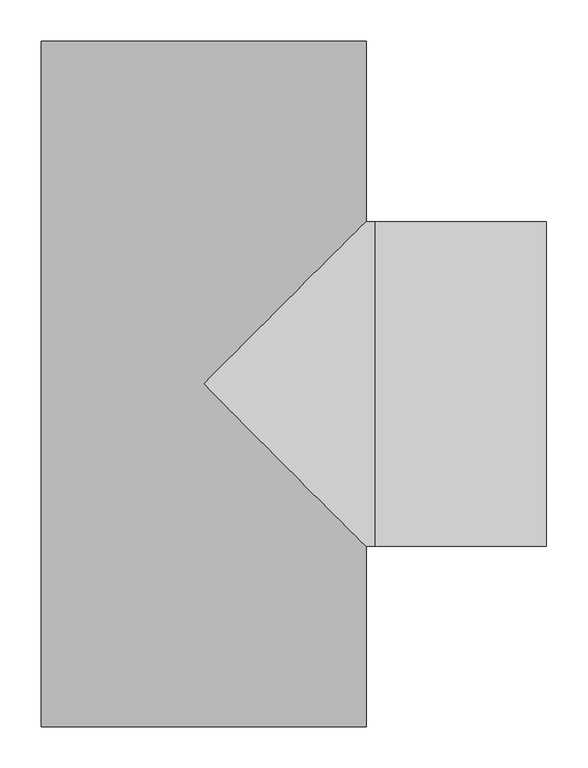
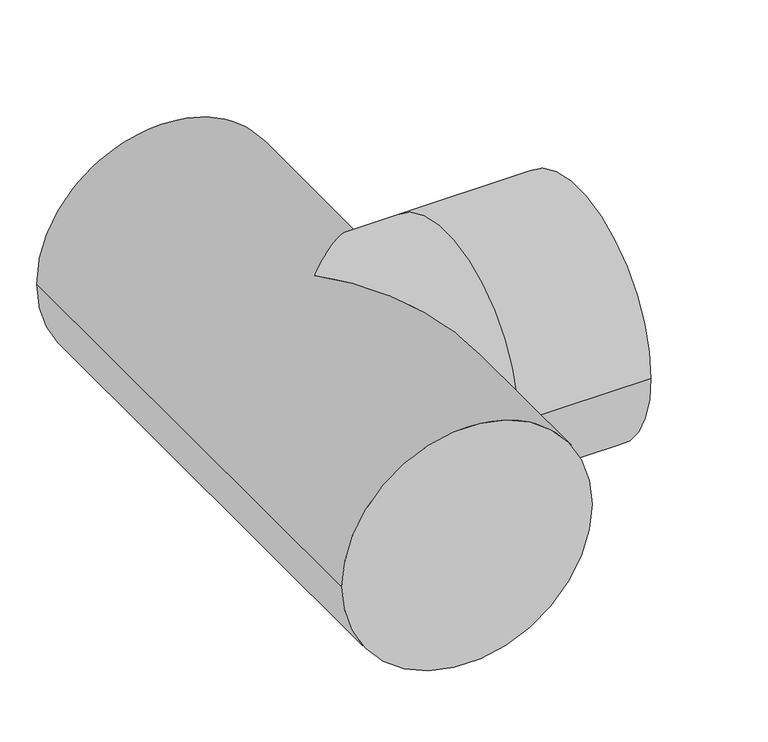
"""IFC4 building model written with IfcOpenShell, lengths in millimetres: pipe fitting geometry, 01051003 : Tés à 90º."""

from ifc_helpers import new_model, si_unit, frame, origin, place, context, project, spatial, circle_curve, ellipse_curve, source, transform, mapped, element, save
from ifc_brep_helpers import plane_surface, cylinder_surface, advanced_brep


def pipe_fitting_89f3fab3(model_context):
    return source(origin(), model_context, "Body", "AdvancedBrep", [
        advanced_brep(
        [(-196.65, 415.0, 0.0), (196.65, 415.0, 0.0), (-196.65, -415.0, 0.0), (196.65, -415.0, 0.0), (196.65, -196.65, 0.0), (0.0, 0.0, 196.65), (196.65, 196.65, 0.0), (0.0, 0.0, -196.65), (415.0, 196.65, 0.0), (415.0, -196.65, 0.0), (207.0, -196.65, 0.0), (207.0, 196.65, 0.0)],
        [
            (0, 1, circle_curve(frame((0.0, 415.0, 0.0), z_axis=(0.0, 1.0, 0.0), x_axis=(1.0, 0.0, 0.0)), 196.65)),
            (1, 0, circle_curve(frame((0.0, 415.0, 0.0), z_axis=(0.0, 1.0, 0.0), x_axis=(1.0, 0.0, 0.0)), 196.65)),
            (2, 3, circle_curve(frame((0.0, -415.0, 0.0), z_axis=(0.0, -1.0, 0.0), x_axis=(1.0, 0.0, 0.0)), 196.65)),
            (3, 2, circle_curve(frame((0.0, -415.0, 0.0), z_axis=(0.0, -1.0, 0.0), x_axis=(1.0, 0.0, 0.0)), 196.65)),
            (0, 2),
            (3, 4),
            (4, 5, ellipse_curve(frame((0.0, 0.0, 0.0), z_axis=(-0.7071067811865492, -0.7071067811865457, 0.0), x_axis=(-0.7071067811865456, 0.7071067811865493, 0.0)), 278.105097, 196.65)),
            (5, 6, ellipse_curve(frame((0.0, 0.0, 0.0), z_axis=(-0.7071067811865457, 0.7071067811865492, 0.0), x_axis=(0.7071067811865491, 0.7071067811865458, 0.0)), 278.105097, 196.65)),
            (6, 1),
            (6, 7, ellipse_curve(frame((0.0, 0.0, 0.0), z_axis=(-0.7071067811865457, 0.7071067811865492, 0.0), x_axis=(0.7071067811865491, 0.7071067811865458, 0.0)), 278.105097, 196.65)),
            (7, 4, ellipse_curve(frame((0.0, 0.0, 0.0), z_axis=(-0.7071067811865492, -0.7071067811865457, 0.0), x_axis=(-0.7071067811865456, 0.7071067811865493, 0.0)), 278.105097, 196.65)),
            (8, 9, circle_curve(frame((415.0, 0.0, 0.0), z_axis=(1.0, 0.0, 0.0), x_axis=(0.0, -1.0, 0.0)), 196.65)),
            (9, 8, circle_curve(frame((415.0, 0.0, 0.0), z_axis=(1.0, 0.0, 0.0), x_axis=(0.0, -1.0, 0.0)), 196.65)),
            (10, 11, circle_curve(frame((207.0, 0.0, 0.0), z_axis=(-1.0, 0.0, 0.0), x_axis=(0.0, -1.0, 0.0)), 196.65)),
            (11, 6),
            (4, 10),
            (11, 10, circle_curve(frame((207.0, 0.0, 0.0), z_axis=(-1.0, 0.0, 0.0), x_axis=(0.0, -1.0, 0.0)), 196.65)),
            (8, 11),
            (10, 9),
        ],
        [
            plane_surface(frame((0.0, 415.0, 0.0), z_axis=(0.0, 1.0, 0.0), x_axis=(0.0, 0.0, 1.0))),
            plane_surface(frame((0.0, -415.0, 0.0), z_axis=(0.0, -1.0, 0.0), x_axis=(0.0, 0.0, 1.0))),
            cylinder_surface(frame((0.0, 415.0, 0.0), z_axis=(0.0, 1.0, 0.0), x_axis=(1.0, 0.0, 0.0)), 196.65),
            plane_surface(frame((415.0, 0.0, 0.0), z_axis=(1.0, 0.0, 0.0), x_axis=(0.0, 0.0, 1.0))),
            cylinder_surface(frame((207.0, 0.0, 0.0), z_axis=(1.0, 0.0, 0.0), x_axis=(0.0, -1.0, 0.0)), 196.65),
            cylinder_surface(frame((415.0, 0.0, 0.0), z_axis=(1.0, 0.0, 0.0), x_axis=(0.0, -1.0, 0.0)), 196.65),
        ],
        [
            (0, [[1, 2]]),
            (1, [[3, 4]]),
            (2, [[-1, 5, -4, 6, 7, 8, 9]]),
            (2, [[-2, -9, 10, 11, -6, -3, -5]]),
            (3, [[12, 13]]),
            (4, [[14, 15, -8, -7, 16]]),
            (4, [[17, -16, -11, -10, -15]]),
            (5, [[-12, 18, -14, 19]]),
            (5, [[-13, -19, -17, -18]]),
        ],
    ),
    ])


if __name__ == "__main__":
    model = new_model("IFC4")
    model_context = context("Model", 3, world=origin())
    ifc_project = project(units=[si_unit("LENGTHUNIT", "METRE", prefix="MILLI")], contexts=[model_context])
    site = spatial("IfcSite", under=ifc_project)
    building = spatial("IfcBuilding", under=site)
    placement = place(None, origin())
    pipe_fitting_shape = pipe_fitting_89f3fab3(model_context)
    element("IfcPipeFitting", 1, ObjectType="01051003 : Tés à 90º", at=placement, inside=building, context=model_context, shape_type="MappedRepresentation", body=[
        mapped(pipe_fitting_shape, transform((0.0, 0.0, 0.0), x_axis=(1.0, 0.0, 0.0), y_axis=(0.0, 1.0, 0.0), z_axis=(0.0, 0.0, 1.0))),
    ])
    save(model, "model.ifc")
